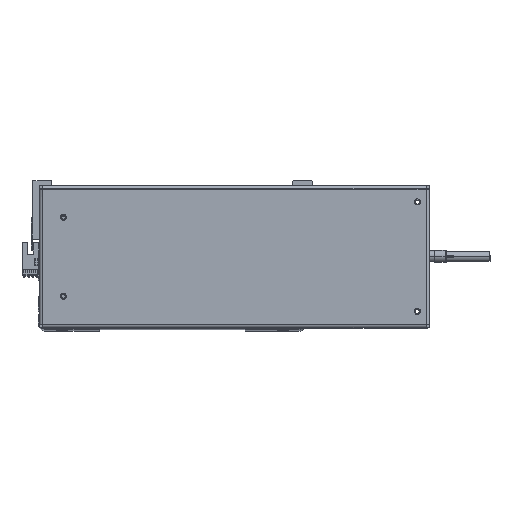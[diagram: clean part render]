
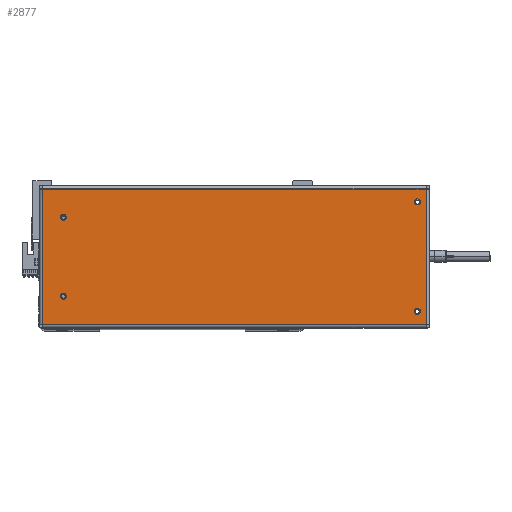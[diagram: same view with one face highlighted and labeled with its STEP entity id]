
A CAD part, top view. The second image highlights one B-rep face of the part: STEP entity #2877.
In plain terms, the highlighted planar face has unit normal (0, 0, 1).
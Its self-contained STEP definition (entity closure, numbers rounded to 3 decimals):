
#628 = AXIS2_PLACEMENT_3D ( 'NONE', #5539, #23874, #35977 ) ;
#725 = PLANE ( 'NONE',  #26008 ) ;
#814 = FACE_BOUND ( 'NONE', #28781, .T. ) ;
#961 = DIRECTION ( 'NONE',  ( 0., 0., 1. ) ) ;
#2123 = DIRECTION ( 'NONE',  ( 0., -1., 0. ) ) ;
#2700 = EDGE_CURVE ( 'NONE', #30534, #4665, #18363, .T. ) ;
#2877 = ADVANCED_FACE ( 'NONE', ( #814, #24082, #14089, #6011, #21235 ), #725, .F. ) ;
#2940 = CIRCLE ( 'NONE', #18705, 2.5 ) ;
#2988 = DIRECTION ( 'NONE',  ( 1., 0., 0. ) ) ;
#3301 = CARTESIAN_POINT ( 'NONE',  ( 150.5, -45., 0. ) ) ;
#3643 = CARTESIAN_POINT ( 'NONE',  ( 153., 45., 0. ) ) ;
#3993 = CARTESIAN_POINT ( 'NONE',  ( -157.6, -55.6, 0. ) ) ;
#4665 = VERTEX_POINT ( 'NONE', #14471 ) ;
#4815 = CARTESIAN_POINT ( 'NONE',  ( 150.5, 45., 0. ) ) ;
#4886 = LINE ( 'NONE', #32570, #14941 ) ;
#5539 = CARTESIAN_POINT ( 'NONE',  ( -140.5, 32.5, 0. ) ) ;
#5770 = CARTESIAN_POINT ( 'NONE',  ( -140.5, -32.5, 0. ) ) ;
#6011 = FACE_BOUND ( 'NONE', #18213, .T. ) ;
#6030 = EDGE_CURVE ( 'NONE', #8612, #7338, #22868, .T. ) ;
#7223 = VERTEX_POINT ( 'NONE', #30500 ) ;
#7338 = VERTEX_POINT ( 'NONE', #37389 ) ;
#7498 = VERTEX_POINT ( 'NONE', #17389 ) ;
#8078 = EDGE_LOOP ( 'NONE', ( #17986, #16419, #16364, #25777 ) ) ;
#8177 = EDGE_CURVE ( 'NONE', #7223, #7498, #19120, .T. ) ;
#8410 = AXIS2_PLACEMENT_3D ( 'NONE', #18772, #21576, #2988 ) ;
#8612 = VERTEX_POINT ( 'NONE', #3993 ) ;
#8976 = DIRECTION ( 'NONE',  ( 0., 0., 1. ) ) ;
#9690 = CARTESIAN_POINT ( 'NONE',  ( 157.7, 55.6, 0. ) ) ;
#9868 = CIRCLE ( 'NONE', #27831, 2.5 ) ;
#10129 = EDGE_CURVE ( 'NONE', #4665, #30534, #26663, .T. ) ;
#11719 = ORIENTED_EDGE ( 'NONE', *, *, #26104, .F. ) ;
#12146 = EDGE_LOOP ( 'NONE', ( #30550, #11719 ) ) ;
#12629 = CARTESIAN_POINT ( 'NONE',  ( -143., 32.5, 0. ) ) ;
#12913 = DIRECTION ( 'NONE',  ( 0., 0., 1. ) ) ;
#13050 = EDGE_CURVE ( 'NONE', #16635, #17770, #22125, .T. ) ;
#13095 = EDGE_CURVE ( 'NONE', #15914, #28373, #17838, .T. ) ;
#13311 = EDGE_CURVE ( 'NONE', #22226, #18124, #20670, .T. ) ;
#13351 = DIRECTION ( 'NONE',  ( 0., 1., 0. ) ) ;
#14089 = FACE_BOUND ( 'NONE', #12146, .T. ) ;
#14471 = CARTESIAN_POINT ( 'NONE',  ( 148., 45., 0. ) ) ;
#14941 = VECTOR ( 'NONE', #2123, 1000. ) ;
#15321 = EDGE_CURVE ( 'NONE', #7338, #22226, #18503, .T. ) ;
#15735 = CARTESIAN_POINT ( 'NONE',  ( 150.5, -45., 0. ) ) ;
#15868 = CARTESIAN_POINT ( 'NONE',  ( 157.7, 58.5, 0. ) ) ;
#15914 = VERTEX_POINT ( 'NONE', #31475 ) ;
#16192 = ORIENTED_EDGE ( 'NONE', *, *, #34960, .F. ) ;
#16364 = ORIENTED_EDGE ( 'NONE', *, *, #15321, .T. ) ;
#16419 = ORIENTED_EDGE ( 'NONE', *, *, #6030, .T. ) ;
#16635 = VERTEX_POINT ( 'NONE', #12629 ) ;
#17137 = DIRECTION ( 'NONE',  ( 1., 0., 0. ) ) ;
#17205 = DIRECTION ( 'NONE',  ( 0., 0., 1. ) ) ;
#17389 = CARTESIAN_POINT ( 'NONE',  ( -138., -32.5, 0. ) ) ;
#17727 = CIRCLE ( 'NONE', #24254, 2.5 ) ;
#17770 = VERTEX_POINT ( 'NONE', #32452 ) ;
#17838 = CIRCLE ( 'NONE', #29141, 2.5 ) ;
#17986 = ORIENTED_EDGE ( 'NONE', *, *, #21302, .T. ) ;
#18124 = VERTEX_POINT ( 'NONE', #32011 ) ;
#18213 = EDGE_LOOP ( 'NONE', ( #29722, #27569 ) ) ;
#18363 = CIRCLE ( 'NONE', #8410, 2.5 ) ;
#18503 = LINE ( 'NONE', #19330, #20411 ) ;
#18705 = AXIS2_PLACEMENT_3D ( 'NONE', #22208, #961, #37213 ) ;
#18772 = CARTESIAN_POINT ( 'NONE',  ( 150.5, 45., 0. ) ) ;
#19120 = CIRCLE ( 'NONE', #19578, 2.5 ) ;
#19330 = CARTESIAN_POINT ( 'NONE',  ( 157.6, -55.6, 0. ) ) ;
#19578 = AXIS2_PLACEMENT_3D ( 'NONE', #23185, #17205, #20143 ) ;
#20143 = DIRECTION ( 'NONE',  ( 1., 0., 0. ) ) ;
#20411 = VECTOR ( 'NONE', #13351, 1000. ) ;
#20670 = LINE ( 'NONE', #9690, #27835 ) ;
#20970 = VECTOR ( 'NONE', #17137, 1000. ) ;
#21112 = EDGE_CURVE ( 'NONE', #17770, #16635, #2940, .T. ) ;
#21235 = FACE_OUTER_BOUND ( 'NONE', #8078, .T. ) ;
#21302 = EDGE_CURVE ( 'NONE', #18124, #8612, #4886, .T. ) ;
#21576 = DIRECTION ( 'NONE',  ( 0., 0., 1. ) ) ;
#21716 = DIRECTION ( 'NONE',  ( 0., 0., -1. ) ) ;
#22125 = CIRCLE ( 'NONE', #628, 2.5 ) ;
#22208 = CARTESIAN_POINT ( 'NONE',  ( -140.5, 32.5, 0. ) ) ;
#22226 = VERTEX_POINT ( 'NONE', #24069 ) ;
#22448 = AXIS2_PLACEMENT_3D ( 'NONE', #4815, #22917, #28919 ) ;
#22868 = LINE ( 'NONE', #23643, #20970 ) ;
#22917 = DIRECTION ( 'NONE',  ( 0., 0., 1. ) ) ;
#23185 = CARTESIAN_POINT ( 'NONE',  ( -140.5, -32.5, 0. ) ) ;
#23643 = CARTESIAN_POINT ( 'NONE',  ( -157.7, -55.6, 0. ) ) ;
#23801 = EDGE_LOOP ( 'NONE', ( #33241, #30090 ) ) ;
#23874 = DIRECTION ( 'NONE',  ( 0., 0., 1. ) ) ;
#24069 = CARTESIAN_POINT ( 'NONE',  ( 157.6, 55.6, 0. ) ) ;
#24082 = FACE_BOUND ( 'NONE', #23801, .T. ) ;
#24254 = AXIS2_PLACEMENT_3D ( 'NONE', #5770, #39416, #35944 ) ;
#24277 = CARTESIAN_POINT ( 'NONE',  ( 148., -45., 0. ) ) ;
#24525 = DIRECTION ( 'NONE',  ( 1., 0., 0. ) ) ;
#25123 = DIRECTION ( 'NONE',  ( -1., 0., 0. ) ) ;
#25777 = ORIENTED_EDGE ( 'NONE', *, *, #13311, .T. ) ;
#26008 = AXIS2_PLACEMENT_3D ( 'NONE', #15868, #21716, #25123 ) ;
#26104 = EDGE_CURVE ( 'NONE', #28373, #15914, #9868, .T. ) ;
#26663 = CIRCLE ( 'NONE', #22448, 2.5 ) ;
#27569 = ORIENTED_EDGE ( 'NONE', *, *, #10129, .F. ) ;
#27831 = AXIS2_PLACEMENT_3D ( 'NONE', #15735, #12913, #28087 ) ;
#27835 = VECTOR ( 'NONE', #36791, 1000. ) ;
#28087 = DIRECTION ( 'NONE',  ( 1., 0., 0. ) ) ;
#28373 = VERTEX_POINT ( 'NONE', #24277 ) ;
#28781 = EDGE_LOOP ( 'NONE', ( #16192, #38624 ) ) ;
#28919 = DIRECTION ( 'NONE',  ( 1., 0., 0. ) ) ;
#29141 = AXIS2_PLACEMENT_3D ( 'NONE', #3301, #8976, #24525 ) ;
#29722 = ORIENTED_EDGE ( 'NONE', *, *, #2700, .F. ) ;
#30090 = ORIENTED_EDGE ( 'NONE', *, *, #13050, .F. ) ;
#30500 = CARTESIAN_POINT ( 'NONE',  ( -143., -32.5, 0. ) ) ;
#30534 = VERTEX_POINT ( 'NONE', #3643 ) ;
#30550 = ORIENTED_EDGE ( 'NONE', *, *, #13095, .F. ) ;
#31475 = CARTESIAN_POINT ( 'NONE',  ( 153., -45., 0. ) ) ;
#32011 = CARTESIAN_POINT ( 'NONE',  ( -157.6, 55.6, 0. ) ) ;
#32452 = CARTESIAN_POINT ( 'NONE',  ( -138., 32.5, 0. ) ) ;
#32570 = CARTESIAN_POINT ( 'NONE',  ( -157.6, 55.6, 0. ) ) ;
#33241 = ORIENTED_EDGE ( 'NONE', *, *, #21112, .F. ) ;
#34960 = EDGE_CURVE ( 'NONE', #7498, #7223, #17727, .T. ) ;
#35944 = DIRECTION ( 'NONE',  ( 1., 0., 0. ) ) ;
#35977 = DIRECTION ( 'NONE',  ( 1., 0., 0. ) ) ;
#36791 = DIRECTION ( 'NONE',  ( -1., 0., 0. ) ) ;
#37213 = DIRECTION ( 'NONE',  ( 1., 0., 0. ) ) ;
#37389 = CARTESIAN_POINT ( 'NONE',  ( 157.6, -55.6, 0. ) ) ;
#38624 = ORIENTED_EDGE ( 'NONE', *, *, #8177, .F. ) ;
#39416 = DIRECTION ( 'NONE',  ( 0., 0., 1. ) ) ;
